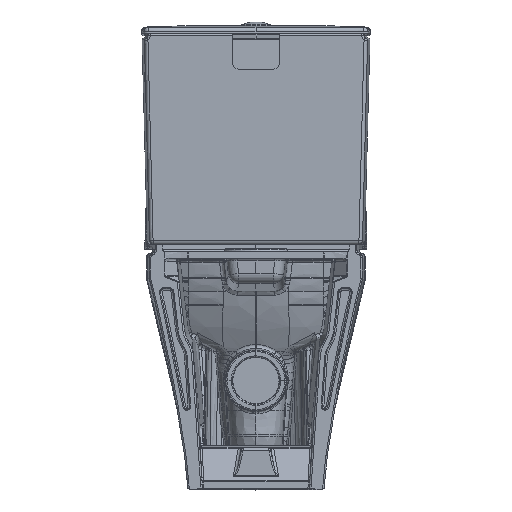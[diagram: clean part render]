
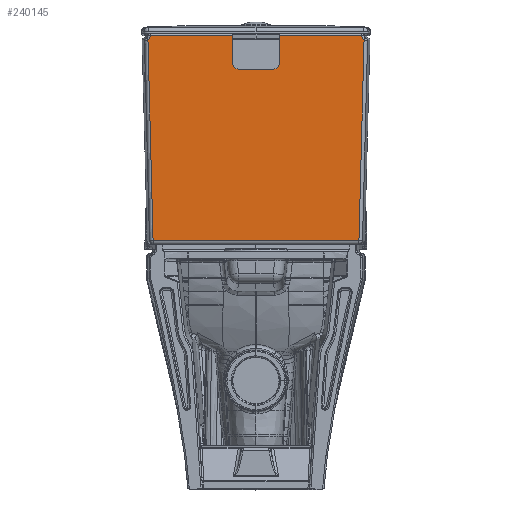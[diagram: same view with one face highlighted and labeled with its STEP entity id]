
A CAD part, left-side view. The second image highlights one B-rep face of the part: STEP entity #240145.
In plain terms, the highlighted planar face has unit normal (-1, 0, 0).
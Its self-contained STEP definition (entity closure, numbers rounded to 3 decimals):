
#239719=CARTESIAN_POINT('',(0.,174.027,19.));
#239720=VERTEX_POINT('',#239719);
#239721=CARTESIAN_POINT('',(0.,182.679,358.009));
#239722=VERTEX_POINT('',#239721);
#239723=CARTESIAN_POINT('',(0.,174.027,19.));
#239724=CARTESIAN_POINT('',(0.,175.758,86.802));
#239725=CARTESIAN_POINT('',(0.,177.488,154.604));
#239726=CARTESIAN_POINT('',(0.,179.218,222.405));
#239727=CARTESIAN_POINT('',(0.,180.949,290.207));
#239728=CARTESIAN_POINT('',(0.,182.679,358.009));
#239729=B_SPLINE_CURVE_WITH_KNOTS('',5,(#239723,#239724,#239725,#239726,#239727,#239728),.UNSPECIFIED.,.F.,.U.,(6,6),(131.193,470.313),.UNSPECIFIED.);
#239730=EDGE_CURVE('',#239720,#239722,#239729,.T.);
#240028=CARTESIAN_POINT('',(0.0,0.0,15.0));
#240029=DIRECTION('',(-1.0,0.0,0.0));
#240030=DIRECTION('',(0.0,0.0,1.0));
#240031=AXIS2_PLACEMENT_3D('',#240028,#240029,#240030);
#240032=PLANE('',#240031);
#240033=CARTESIAN_POINT('',(0.0,-40.0,320.0));
#240034=VERTEX_POINT('',#240033);
#240035=CARTESIAN_POINT('',(0.0,-28.,308.0));
#240036=VERTEX_POINT('',#240035);
#240037=CARTESIAN_POINT('',(0.0,-28.,320.0));
#240038=DIRECTION('',(-1.0,0.0,0.0));
#240039=DIRECTION('',(0.0,1.0,0.0));
#240040=AXIS2_PLACEMENT_3D('',#240037,#240038,#240039);
#240041=CIRCLE('',#240040,12.);
#240042=EDGE_CURVE('',#240034,#240036,#240041,.F.);
#240043=ORIENTED_EDGE('',*,*,#240042,.T.);
#240044=CARTESIAN_POINT('',(0.0,28.,308.0));
#240045=VERTEX_POINT('',#240044);
#240046=CARTESIAN_POINT('',(0.0,-28.,308.0));
#240047=DIRECTION('',(0.0,1.0,0.0));
#240048=VECTOR('',#240047,56.);
#240049=LINE('',#240046,#240048);
#240050=EDGE_CURVE('',#240036,#240045,#240049,.T.);
#240051=ORIENTED_EDGE('',*,*,#240050,.T.);
#240052=CARTESIAN_POINT('',(0.0,40.0,320.0));
#240053=VERTEX_POINT('',#240052);
#240054=CARTESIAN_POINT('',(0.0,28.,320.));
#240055=DIRECTION('',(1.0,0.0,0.0));
#240056=DIRECTION('',(0.0,1.0,0.0));
#240057=AXIS2_PLACEMENT_3D('',#240054,#240055,#240056);
#240058=CIRCLE('',#240057,12.);
#240059=EDGE_CURVE('',#240045,#240053,#240058,.T.);
#240060=ORIENTED_EDGE('',*,*,#240059,.T.);
#240061=CARTESIAN_POINT('',(0.0,40.0,366.));
#240062=VERTEX_POINT('',#240061);
#240063=CARTESIAN_POINT('',(0.0,40.0,320.0));
#240064=DIRECTION('',(0.0,0.0,1.0));
#240065=VECTOR('',#240064,46.);
#240066=LINE('',#240063,#240065);
#240067=EDGE_CURVE('',#240053,#240062,#240066,.T.);
#240068=ORIENTED_EDGE('',*,*,#240067,.T.);
#240069=CARTESIAN_POINT('',(0.,178.681,366.));
#240070=VERTEX_POINT('',#240069);
#240071=CARTESIAN_POINT('',(0.0,178.681,366.));
#240072=DIRECTION('',(0.0,-1.0,0.0));
#240073=VECTOR('',#240072,138.681);
#240074=LINE('',#240071,#240073);
#240075=EDGE_CURVE('',#240062,#240070,#240074,.F.);
#240076=ORIENTED_EDGE('',*,*,#240075,.T.);
#240077=CARTESIAN_POINT('',(0.0,178.841,364.475));
#240078=VERTEX_POINT('',#240077);
#240079=CARTESIAN_POINT('',(0.0,178.681,366.));
#240080=DIRECTION('',(0.0,0.105,-0.995));
#240081=VECTOR('',#240080,1.534);
#240082=LINE('',#240079,#240081);
#240083=EDGE_CURVE('',#240070,#240078,#240082,.T.);
#240084=ORIENTED_EDGE('',*,*,#240083,.T.);
#240085=CARTESIAN_POINT('',(0.,187.767,365.399));
#240086=DIRECTION('',(1.0,0.,0.));
#240087=DIRECTION('',(0.,-0.581,0.814));
#240088=AXIS2_PLACEMENT_3D('',#240085,#240086,#240087);
#240089=ELLIPSE('',#240088,8.986,8.97);
#240090=EDGE_CURVE('',#240078,#239722,#240089,.T.);
#240091=ORIENTED_EDGE('',*,*,#240090,.T.);
#240092=ORIENTED_EDGE('',*,*,#239730,.F.);
#240093=CARTESIAN_POINT('',(0.,-174.027,19.));
#240094=VERTEX_POINT('',#240093);
#240095=CARTESIAN_POINT('',(0.0,174.027,19.));
#240096=DIRECTION('',(0.0,-1.0,0.));
#240097=VECTOR('',#240096,348.055);
#240098=LINE('',#240095,#240097);
#240099=EDGE_CURVE('',#239720,#240094,#240098,.T.);
#240100=ORIENTED_EDGE('',*,*,#240099,.T.);
#240101=CARTESIAN_POINT('',(0.0,-182.679,358.009));
#240102=VERTEX_POINT('',#240101);
#240103=CARTESIAN_POINT('',(0.0,-174.027,19.0));
#240104=CARTESIAN_POINT('',(0.0,-175.758,86.802));
#240105=CARTESIAN_POINT('',(0.0,-177.488,154.604));
#240106=CARTESIAN_POINT('',(0.0,-179.218,222.406));
#240107=CARTESIAN_POINT('',(0.0,-180.949,290.207));
#240108=CARTESIAN_POINT('',(0.0,-182.679,358.009));
#240109=B_SPLINE_CURVE_WITH_KNOTS('',5,(#240103,#240104,#240105,#240106,#240107,#240108),.UNSPECIFIED.,.F.,.U.,(6,6),(0.0,479.588),.UNSPECIFIED.);
#240110=EDGE_CURVE('',#240094,#240102,#240109,.T.);
#240111=ORIENTED_EDGE('',*,*,#240110,.T.);
#240112=CARTESIAN_POINT('',(0.,-178.841,364.475));
#240113=VERTEX_POINT('',#240112);
#240114=CARTESIAN_POINT('',(0.,-187.767,365.399));
#240115=DIRECTION('',(-1.0,0.,0.));
#240116=DIRECTION('',(0.,-0.581,-0.814));
#240117=AXIS2_PLACEMENT_3D('',#240114,#240115,#240116);
#240118=ELLIPSE('',#240117,8.986,8.97);
#240119=EDGE_CURVE('',#240113,#240102,#240118,.T.);
#240120=ORIENTED_EDGE('',*,*,#240119,.F.);
#240121=CARTESIAN_POINT('',(0.,-178.681,366.));
#240122=VERTEX_POINT('',#240121);
#240123=CARTESIAN_POINT('',(0.0,-178.841,364.475));
#240124=DIRECTION('',(0.0,0.105,0.995));
#240125=VECTOR('',#240124,1.534);
#240126=LINE('',#240123,#240125);
#240127=EDGE_CURVE('',#240122,#240113,#240126,.F.);
#240128=ORIENTED_EDGE('',*,*,#240127,.F.);
#240129=CARTESIAN_POINT('',(0.0,-40.0,366.0));
#240130=VERTEX_POINT('',#240129);
#240131=CARTESIAN_POINT('',(0.0,-40.0,366.));
#240132=DIRECTION('',(0.0,-1.0,0.));
#240133=VECTOR('',#240132,138.681);
#240134=LINE('',#240131,#240133);
#240135=EDGE_CURVE('',#240130,#240122,#240134,.T.);
#240136=ORIENTED_EDGE('',*,*,#240135,.F.);
#240137=CARTESIAN_POINT('',(0.0,-40.0,320.0));
#240138=DIRECTION('',(0.0,0.0,1.0));
#240139=VECTOR('',#240138,46.0);
#240140=LINE('',#240137,#240139);
#240141=EDGE_CURVE('',#240034,#240130,#240140,.T.);
#240142=ORIENTED_EDGE('',*,*,#240141,.F.);
#240143=EDGE_LOOP('',(#240043,#240051,#240060,#240068,#240076,#240084,#240091,#240092,#240100,#240111,#240120,#240128,#240136,#240142));
#240144=FACE_OUTER_BOUND('',#240143,.T.);
#240145=ADVANCED_FACE('',(#240144),#240032,.T.);
